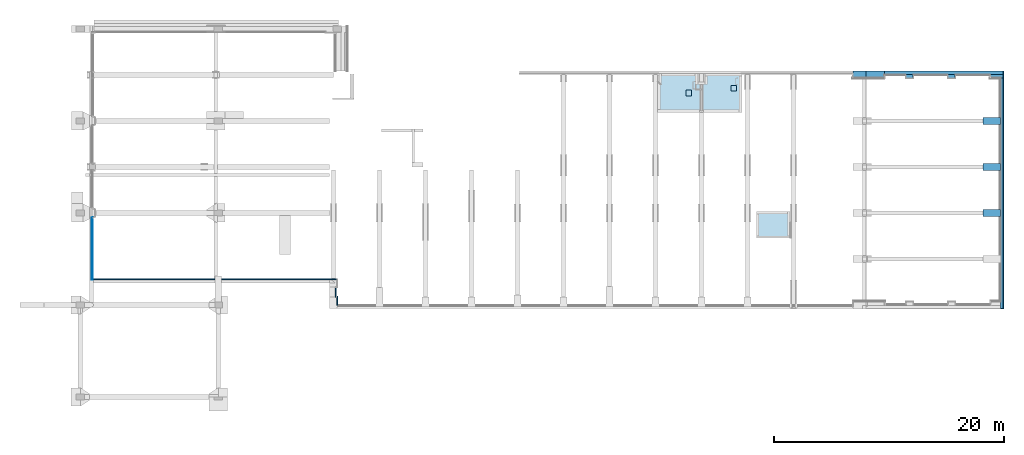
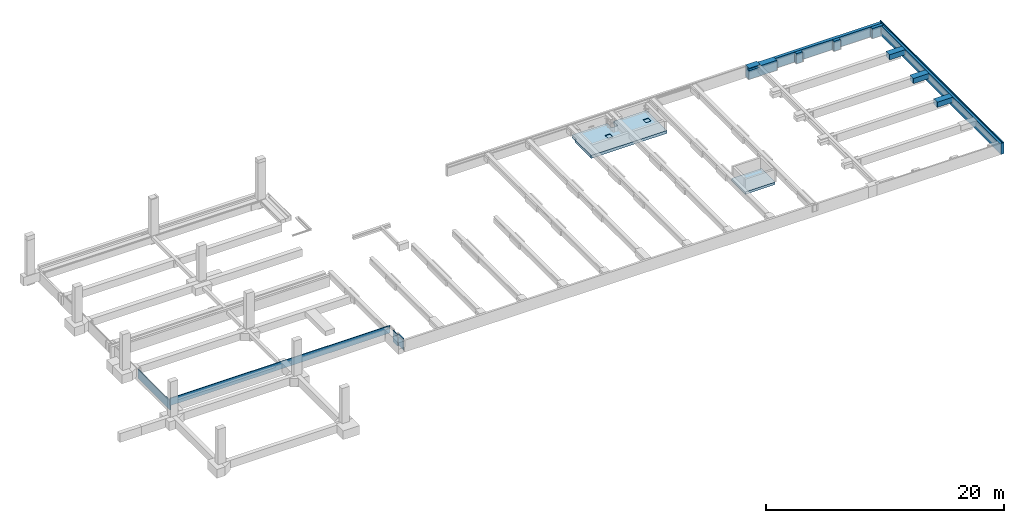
# One storey, part 9 of 17: 9 beams, 4 walls, 2 slabs, 3 openings.
"""IFC2X3 building model written with IfcOpenShell, lengths in millimetres."""

from ifc_helpers import new_model, entity, si_unit, converted_unit, derived_unit, money_unit, direction, frame, origin_with_axes, place, context, subcontext, project, spatial, faceted_brep, material, type_object, element, save


model = new_model("IFC2X3")

# Units and contexts
model_context = context("Model", 3, precision=0.01, world=origin_with_axes(), true_north=direction((0.0, 1.0)))
body_context = subcontext(model_context, "Body", "Model", "MODEL_VIEW")
ifc_project = project(units=[si_unit("LENGTHUNIT", "METRE", prefix="MILLI"), si_unit("AREAUNIT", "SQUARE_METRE"), si_unit("VOLUMEUNIT", "CUBIC_METRE"), converted_unit("PLANEANGLEUNIT", "DEGREE", entity("IfcPlaneAngleMeasure", 0.0174532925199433), si_unit("PLANEANGLEUNIT", "RADIAN"), dimensions=[0, 0, 0, 0, 0, 0, 0]), money_unit("EUR"), converted_unit("TIMEUNIT", "Year", entity("IfcTimeMeasure", 31557600.0), si_unit("TIMEUNIT", "SECOND"), dimensions=[0, 0, 1, 0, 0, 0, 0]), si_unit("MASSUNIT", "GRAM", prefix="KILO"), si_unit("THERMODYNAMICTEMPERATUREUNIT", "DEGREE_CELSIUS"), si_unit("LUMINOUSINTENSITYUNIT", "LUMEN"), si_unit("ENERGYUNIT", "JOULE", prefix="MEGA"), derived_unit("THERMALCONDUCTANCEUNIT", [(si_unit("POWERUNIT", "WATT"), 1), (si_unit("LENGTHUNIT", "METRE"), -1), (si_unit("THERMODYNAMICTEMPERATUREUNIT", "KELVIN"), -1)]), derived_unit("SPECIFICHEATCAPACITYUNIT", [(si_unit("ENERGYUNIT", "JOULE"), 1), (si_unit("MASSUNIT", "GRAM", prefix="KILO"), -1), (si_unit("THERMODYNAMICTEMPERATUREUNIT", "KELVIN"), -1)]), derived_unit("MASSDENSITYUNIT", [(si_unit("MASSUNIT", "GRAM", prefix="KILO"), 1), (si_unit("VOLUMEUNIT", "CUBIC_METRE"), -1)])], contexts=[model_context])

# Site, building, storey
site_placement = place(None, origin_with_axes())
site = spatial("IfcSite", under=ifc_project, at=site_placement, Name="<site naam>", CompositionType="ELEMENT")
building_placement = place(site_placement, origin_with_axes())
building = spatial("IfcBuilding", under=site, at=building_placement, Name="<Naam gebouw>", CompositionType="ELEMENT")
storey_placement = place(building_placement, frame((0.0, 0.0, -1100.0), z_axis=(0.0, 0.0, 1.0), x_axis=(1.0, 0.0, 0.0)))
storey = spatial("IfcBuildingStorey", under=building, at=storey_placement, Name="-1 Fundering", CompositionType="ELEMENT", Elevation=-1100.0)

# Beams
ifc_material_1 = material(Name="beton_gewapend C")
beam_type_1 = type_object("IfcBeamType", Name="beton_gewapend C 600 x 650", PredefinedType="BEAM")
beam_1_placement = place(storey_placement, frame((70310.0, 8000.000000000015, 1070.0), z_axis=(0.0, 0.0, 1.0), x_axis=(0.0, 1.0, 0.0)))
element("IfcBeam", 1, at=beam_1_placement, inside=storey, type_object=beam_type_1, material=ifc_material_1, Name="28_Balk_beton_gewapend", ObjectType="BEAM", context=body_context, shape_type="Brep", body=[
    faceted_brep([(300.0000000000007, 1819.999999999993, -650.0000000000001), (300.0000000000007, 1819.999999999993, -120.0), (300.0000000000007, 299.9999999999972, -119.9999999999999), (300.0000000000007, 299.9999999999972, -650.0000000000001), (-299.9999999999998, 1819.999999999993, -650.0000000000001), (-299.9999999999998, 1819.999999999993, -119.9999999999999), (-299.9999999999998, 299.9999999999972, -120.0), (-299.9999999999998, 299.9999999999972, -650.0000000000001)], [[[0, 1, 2, 3]], [[4, 5, 1, 0]], [[5, 6, 2, 1]], [[3, 2, 6, 7]], [[7, 4, 0, 3]], [[7, 6, 5, 4]]]),
])
for number, where, z_axis, x_axis, name in (
    (2, (70310.0, 12000.00000000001, 1070.0), (0.0, 0.0, 1.0), (0.0, 1.0, 0.0), "28_Balk_beton_gewapend"),
    (3, (70310.0, 16000.00000000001, 1070.0), (0.0, 0.0, 1.0), (0.0, 1.0, 0.0), "28_Balk_beton_gewapend"),
):
    element("IfcBeam", number, at=place(storey_placement, frame(where, z_axis=z_axis, x_axis=x_axis)), inside=storey, type_object=beam_type_1, material=ifc_material_1, Name=name, ObjectType="BEAM", context=body_context, shape_type="Brep", body=[
        faceted_brep([(300.0000000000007, 1819.999999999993, -650.0000000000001), (300.0000000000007, 1819.999999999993, -120.0), (300.0000000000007, 299.9999999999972, -119.9999999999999), (300.0000000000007, 299.9999999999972, -650.0000000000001), (-300.0000000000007, 1819.999999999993, -650.0000000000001), (-300.0000000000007, 1819.999999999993, -119.9999999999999), (-300.0000000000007, 299.9999999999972, -120.0), (-300.0000000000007, 299.9999999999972, -650.0000000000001)], [[[0, 1, 2, 3]], [[4, 5, 1, 0]], [[5, 6, 2, 1]], [[3, 2, 6, 7]], [[4, 0, 3, 7]], [[7, 6, 5, 4]]]),
    ])
beam_type_2 = type_object("IfcBeamType", Name="beton_gewapend C 300 x 1150", PredefinedType="BEAM")
beam_2_placement = place(storey_placement, frame((70310.0, -334.9999999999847, 1070.0), z_axis=(0.0, 0.0, 1.0), x_axis=(1.0, 0.0, 0.0)))
element("IfcBeam", 4, at=beam_2_placement, inside=storey, type_object=beam_type_2, material=ifc_material_1, Name="28_Balk_beton_gewapend", ObjectType="BEAM", context=body_context, shape_type="Brep", body=[
    faceted_brep([(-299.9999999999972, 20070.0, -1150.0), (-299.9999999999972, 20070.0, -120.0), (-84.99999999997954, 20070.0, -120.0), (-84.99999999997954, 20070.0, 0.0), (0.0, 20070.0, 0.0), (0.0, 20070.0, -1150.0), (-299.9999999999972, 10.91067811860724, 0.0), (-299.9999999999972, 10.91067811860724, -120.0), (-299.9999999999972, 0.0, -1150.0), (-299.9999999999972, 0.0, 0.0), (-84.99999999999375, 10.91067811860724, -120.0), (-84.99999999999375, 10.91067811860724, 0.0), (0.0, 0.0, 0.0), (0.0, 0.0, -1150.0)], [[[0, 1, 2, 3, 4, 5]], [[6, 7, 1, 0, 8, 9]], [[10, 2, 1, 7]], [[10, 11, 3, 2]], [[3, 11, 6, 9, 12, 4]], [[12, 13, 5, 4]], [[13, 8, 0, 5]], [[7, 6, 11, 10]], [[8, 13, 12, 9]]]),
])
beam_3_placement = place(storey_placement, frame((58000.00000000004, 20335.00000000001, 1070.0), z_axis=(0.0, 0.0, 1.0), x_axis=(0.0, -1.0, 0.0)))
element("IfcBeam", 5, at=beam_3_placement, inside=storey, type_object=beam_type_2, material=ifc_material_1, Name="28_Balk_beton_gewapend", ObjectType="BEAM", context=body_context, shape_type="Brep", body=[
    faceted_brep([(0.0, 1899.999999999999, -1150.0), (0.0, 1899.999999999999, -120.0), (0.0, 12224.99999999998, -120.0), (0.0, 12224.99999999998, 0.0), (0.0, 12309.99999999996, 0.0), (0.0, 12309.99999999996, -1150.0), (300.0000000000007, 1899.999999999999, -1150.0), (300.0000000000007, 1899.999999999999, -120.0), (300.0000000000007, 12224.99999999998, -120.0), (300.0000000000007, 12224.99999999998, 0.0), (300.0000000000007, 12309.99999999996, 0.0), (300.0000000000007, 12309.99999999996, -1150.0)], [[[0, 1, 2, 3, 4, 5]], [[6, 7, 1, 0]], [[8, 2, 1, 7]], [[8, 9, 3, 2]], [[4, 3, 9, 10]], [[4, 10, 11, 5]], [[5, 11, 6, 0]], [[9, 8, 7, 6, 11, 10]]]),
])
beam_type_3 = type_object("IfcBeamType", Name="beton_gewapend C 600 x 1150", PredefinedType="BEAM")
beam_4_placement = place(storey_placement, frame((62400.00000000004, 20335.00000000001, 1070.0), z_axis=(0.0, 0.0, 1.0), x_axis=(0.0, 1.0, 0.0)))
element("IfcBeam", 6, at=beam_4_placement, inside=storey, type_object=beam_type_3, material=ifc_material_1, Name="28_Balk_beton_gewapend", ObjectType="BEAM", context=body_context, shape_type="Brep", body=[
    faceted_brep([(-300.0000000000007, 600.0000000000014, -1150.0), (-300.0000000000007, 600.0000000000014, -120.0), (-300.0000000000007, 0.0, -120.0000000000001), (-300.0000000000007, 0.0, -1150.0), (-600.0000000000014, 600.0000000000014, -1150.0), (-600.0000000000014, 600.0000000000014, -120.0), (-600.0000000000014, 0.0, -120.0), (-600.0000000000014, 0.0, -1150.0)], [[[0, 1, 2, 3]], [[4, 5, 1, 0]], [[5, 6, 2, 1]], [[3, 2, 6, 7]], [[3, 7, 4, 0]], [[7, 6, 5, 4]]]),
])
beam_5_placement = place(storey_placement, frame((66050.00000000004, 20335.00000000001, 1070.0), z_axis=(0.0, 0.0, 1.0), x_axis=(0.0, 1.0, 0.0)))
element("IfcBeam", 7, at=beam_5_placement, inside=storey, type_object=beam_type_3, material=ifc_material_1, Name="28_Balk_beton_gewapend", ObjectType="BEAM", context=body_context, shape_type="Brep", body=[
    faceted_brep([(-299.9999999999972, 600.0000000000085, -1150.0), (-299.9999999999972, 600.0000000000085, -120.0), (-299.9999999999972, 0.0, -120.0000000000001), (-299.9999999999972, 0.0, -1150.0), (-600.0000000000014, 600.0000000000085, -1150.0), (-600.0000000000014, 600.0000000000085, -120.0), (-600.0000000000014, 0.0, -120.0), (-600.0000000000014, 0.0, -1150.0)], [[[0, 1, 2, 3]], [[4, 5, 1, 0]], [[5, 6, 2, 1]], [[3, 2, 6, 7]], [[3, 7, 4, 0]], [[7, 6, 5, 4]]]),
])
beam_6_placement = place(storey_placement, frame((59900.00000000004, 20335.00000000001, 1070.0), z_axis=(0.0, 0.0, 1.0), x_axis=(0.0, 1.0, 0.0)))
element("IfcBeam", 8, at=beam_6_placement, inside=storey, type_object=beam_type_3, material=ifc_material_1, Name="28_Balk_beton_gewapend", ObjectType="BEAM", context=body_context, shape_type="Brep", body=[
    faceted_brep([(0.0, 2700.000000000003, 0.0), (0.0, 1582.217155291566, 0.0), (0.0, 1582.217155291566, -120.0), (0.0, 0.0, -120.0), (0.0, 0.0, -1150.0), (0.0, 2700.000000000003, -1150.0), (-600.0000000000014, 2700.000000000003, 0.0), (-599.9999999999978, 1582.217155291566, 0.0), (-600.0000000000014, 1582.217155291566, -120.0), (-600.0000000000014, 0.0, -120.0), (-600.0000000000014, 0.0, -1150.0), (-600.0000000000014, 2700.000000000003, -1150.0), (-385.0453154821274, 2700.000000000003, -250.0), (-385.0453154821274, 2700.000000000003, -50.00000000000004), (-600.0000000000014, 2700.000000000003, -50.00000000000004), (-600.0000000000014, 2700.000000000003, -250.0), (-600.0000000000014, 1632.217029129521, -50.00000000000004), (-600.0000000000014, 1632.217029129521, -250.0), (-385.0453154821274, 1632.217029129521, -50.00000000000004), (-385.0453154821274, 1632.217029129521, -250.0)], [[[0, 1, 2, 3, 4, 5]], [[6, 7, 1, 0]], [[8, 2, 1, 7]], [[8, 9, 3, 2]], [[4, 3, 9, 10]], [[5, 4, 10, 11]], [[12, 13, 14, 6, 0, 5, 11, 15]], [[9, 8, 7, 6, 14, 16, 17, 15, 11, 10]], [[18, 13, 12, 19]], [[18, 16, 14, 13]], [[12, 15, 17, 19]], [[19, 17, 16, 18]]]),
])
beam_7_placement = place(storey_placement, frame((70310.0, 20335.00000000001, 1070.0), z_axis=(0.0, 0.0, 1.0), x_axis=(0.0, 1.0, 0.0)))
element("IfcBeam", 9, at=beam_7_placement, inside=storey, type_object=beam_type_3, material=ifc_material_1, Name="28_Balk_beton_gewapend", ObjectType="BEAM", context=body_context, shape_type="Brep", body=[
    faceted_brep([(-300.0000000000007, 1159.999999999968, -1150.0), (-300.0000000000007, 1159.999999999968, -120.0), (-300.0000000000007, 84.99999999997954, -120.0), (-300.0000000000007, 84.99999999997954, 0.0), (-300.0000000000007, 0.0, 0.0), (-300.0000000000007, 0.0, -1150.0), (-600.0000000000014, 1159.999999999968, -1150.0), (-600.0000000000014, 1159.999999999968, -120.0), (-600.0000000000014, 84.99999999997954, -120.0), (-600.0000000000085, 84.99999999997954, 0.0), (-600.0000000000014, 0.0, 0.0), (-600.0000000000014, 0.0, -1150.0)], [[[0, 1, 2, 3, 4, 5]], [[6, 7, 1, 0]], [[8, 2, 1, 7]], [[8, 9, 3, 2]], [[4, 3, 9, 10]], [[10, 11, 5, 4]], [[11, 6, 0, 5]], [[9, 8, 7, 6, 11, 10]]]),
])

# Slab
ifc_material_2 = material(Name="beton_gewapend_vloer C")
slab_type_1 = type_object("IfcSlabType", Name="beton_gewapend_vloer C  250", PredefinedType="NOTDEFINED")
slab_1_placement = place(storey_placement, frame((51700.00000000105, 8104.999998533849, -199.9999999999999), z_axis=(0.0, 0.0, 1.0), x_axis=(1.0, 0.0, 0.0)))
element("IfcSlab", 10, at=slab_1_placement, inside=storey, type_object=slab_type_1, material=ifc_material_2, Name="23_Vloer_beton_gewapend_vloer", PredefinedType="NOTDEFINED", context=body_context, shape_type="Brep", body=[
    faceted_brep([(0.0, 0.0, 0.0), (0.0, 0.0, -250.0), (-2899.99999999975, 0.0, -250.0), (-2899.99999999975, 0.0, 0.0), (0.0, -2299.999999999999, 0.0), (0.0, -2299.999999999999, -250.0), (-2899.99999999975, -2299.999999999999, -250.0), (-2899.99999999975, -2299.999999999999, 0.0)], [[[0, 1, 2, 3]], [[4, 5, 1, 0]], [[2, 1, 5, 6]], [[3, 2, 6, 7]], [[4, 0, 3, 7]], [[7, 6, 5, 4]]]),
])

# Slab, openings
slab_type_2 = type_object("IfcSlabType", Name="beton_gewapend_vloer C  300", PredefinedType="NOTDEFINED")
slab_2_placement = place(storey_placement, frame((40174.9999643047, 16724.9498352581, -70.00000000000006), z_axis=(0.0, 0.0, 1.0), x_axis=(1.0, 0.0, 0.0)))
slab_2 = element("IfcSlab", 11, at=slab_2_placement, inside=storey, type_object=slab_type_2, material=ifc_material_2, Name="23_Vloer_beton_gewapend_vloer", PredefinedType="NOTDEFINED", context=body_context, shape_type="Brep", body=[
    faceted_brep([(0.0, 0.0, 0.0), (0.0, 0.0, -300.0000000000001), (7337.884424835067, 0.0, -300.0000000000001), (7337.884424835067, 0.0, 0.0), (0.0, 2675.050323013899, 0.0), (0.0, 2675.050323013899, -300.0000000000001), (125.0000120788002, 2675.050323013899, -300.0000000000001), (125.0000120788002, 3410.05013508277, -300.0000000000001), (3525.000016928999, 3410.05013508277, -300.0000000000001), (3525.000016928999, 2675.050215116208, -300.0000000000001), (4125.00007490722, 2675.050215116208, -300.0000000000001), (4125.00007490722, 3410.05013508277, -300.0000000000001), (7337.884424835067, 3410.05013508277, -300.0000000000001), (7337.884424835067, 3410.05013508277, 0.0), (4125.00007490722, 3410.05013508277, 0.0), (4125.00007490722, 2675.050215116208, 0.0), (3525.000016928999, 2675.050215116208, 0.0), (3525.000016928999, 3410.05013508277, 0.0), (125.0000120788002, 3410.05013508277, 0.0), (125.0000120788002, 2675.050323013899, 0.0)], [[[0, 1, 2, 3]], [[4, 5, 1, 0]], [[2, 1, 5, 6, 7, 8, 9, 10, 11, 12]], [[3, 2, 12, 13]], [[4, 0, 3, 13, 14, 15, 16, 17, 18, 19]], [[19, 6, 5, 4]], [[18, 7, 6, 19]], [[17, 8, 7, 18]], [[16, 9, 8, 17]], [[15, 10, 9, 16]], [[14, 11, 10, 15]], [[13, 12, 11, 14]]]),
])
opening_1_placement = place(slab_2_placement, frame((-40174.9999643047, -16724.9498352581, 1170.0), z_axis=(0.0, 0.0, 1.0), x_axis=(1.0, 0.0, 0.0)))
element("IfcOpeningElement", 12, at=opening_1_placement, cuts=slab_2, Name="23_Opening_", context=body_context, shape_type="Brep", body=[
    faceted_brep([(44375.00000000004, 18499.99999999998, -1120.0), (45087.60832788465, 18499.99999999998, -1120.0), (45087.60832788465, 18499.99999999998, -870.0000000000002), (44375.00000000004, 18499.99999999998, -870.0000000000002), (44375.00000000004, 19199.99999999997, -1120.0), (45087.60832788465, 19199.99999999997, -1120.0), (45087.60832788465, 19199.99999999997, -870.0000000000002), (44375.00000000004, 19199.99999999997, -870.0000000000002)], [[[0, 1, 2, 3]], [[0, 4, 5, 1]], [[1, 5, 6, 2]], [[3, 2, 6, 7]], [[4, 0, 3, 7]], [[5, 4, 7, 6]]]),
])
opening_2_placement = place(slab_2_placement, frame((-40174.9999643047, -16724.9498352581, 1170.0), z_axis=(0.0, 0.0, 1.0), x_axis=(1.0, 0.0, 0.0)))
element("IfcOpeningElement", 13, at=opening_2_placement, cuts=slab_2, Name="23_pompput_", context=body_context, shape_type="Brep", body=[
    faceted_brep([(46562.88438913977, 18584.98572316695, -1220.0), (47062.88438913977, 18584.98572316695, -1220.0), (47062.88438913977, 18584.98572316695, -870.0000000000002), (46562.88438913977, 18584.98572316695, -870.0000000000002), (46562.88438913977, 19084.98572316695, -1220.0), (47062.88438913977, 19084.98572316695, -1220.0), (47062.88438913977, 19084.98572316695, -870.0000000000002), (46562.88438913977, 19084.98572316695, -870.0000000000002)], [[[0, 1, 2, 3]], [[0, 4, 5, 1]], [[1, 5, 6, 2]], [[3, 2, 6, 7]], [[4, 0, 3, 7]], [[5, 4, 7, 6]]]),
])
opening_3_placement = place(slab_2_placement, frame((-40174.9999643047, -16724.9498352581, 1170.0), z_axis=(0.0, 0.0, 1.0), x_axis=(1.0, 0.0, 0.0)))
element("IfcOpeningElement", 14, at=opening_3_placement, cuts=slab_2, Name="23_pompput_", context=body_context, shape_type="Brep", body=[
    faceted_brep([(42650.00000000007, 18184.95995398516, -1220.0), (43150.00000000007, 18184.95995398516, -1220.0), (43150.00000000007, 18184.95995398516, -870.0000000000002), (42650.00000000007, 18184.95995398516, -870.0000000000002), (42650.00000000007, 18684.95995398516, -1220.0), (43150.00000000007, 18684.95995398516, -1220.0), (43150.00000000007, 18684.95995398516, -870.0000000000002), (42650.00000000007, 18684.95995398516, -870.0000000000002)], [[[0, 1, 2, 3]], [[0, 4, 5, 1]], [[1, 5, 6, 2]], [[3, 2, 6, 7]], [[4, 0, 3, 7]], [[5, 4, 7, 6]]]),
])

# Walls
ifc_material_3 = material(Name="ALG - ISOLATIE")
wall_type = type_object("IfcWallType", Name="ALG - ISOLATIE 85", PredefinedType="NOTDEFINED")
wall_1_placement = place(storey_placement, frame((12300.43580117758, 692.2234741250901, -50.00000000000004), z_axis=(0.0, 0.0, 1.0), x_axis=(0.0003795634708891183, -0.9999999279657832, 0.0)))
element("IfcWall", 15, at=wall_1_placement, inside=storey, type_object=wall_type, material=ifc_material_3, Name="21_Binnenwand_ALG", context=body_context, shape_type="Brep", body=[
    faceted_brep([(-84.96774322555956, 85.00000000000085, 0.0), (-84.96774322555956, 85.00000000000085, 870.0000000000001), (732.3032405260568, 84.99999999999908, 870.0000000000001), (732.3032405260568, 84.99999999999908, 0.0), (-85.00000612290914, 0.0, 0.0), (-85.00000612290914, 0.0, 870.0000000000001), (732.303240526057, 0.0, 870.0000000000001), (732.303240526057, 0.0, 0.0)], [[[0, 1, 2, 3]], [[4, 5, 1, 0]], [[5, 6, 2, 1]], [[3, 2, 6, 7]], [[0, 3, 7, 4]], [[7, 6, 5, 4]]]),
    faceted_brep([(732.303240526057, 0.0, 1150.0), (732.303240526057, 0.0, 950.0000000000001), (732.3032405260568, 84.99999999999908, 950.0000000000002), (732.3032405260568, 84.99999999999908, 1150.0), (-85.00000612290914, 0.0, 1150.0), (-85.00000612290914, 0.0, 950.0000000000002), (-84.96774322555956, 85.00000000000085, 950.0000000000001), (-84.96774322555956, 85.00000000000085, 1150.0)], [[[0, 1, 2, 3]], [[4, 5, 1, 0]], [[5, 6, 2, 1]], [[3, 2, 6, 7]], [[4, 0, 3, 7]], [[7, 6, 5, 4]]]),
])
wall_2_placement = place(storey_placement, frame((12300.44613421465, 2175.000000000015, 349.9999928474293), z_axis=(0.0, 0.0, 1.0), x_axis=(-1.0, 0.0, 0.0)))
element("IfcWall", 16, at=wall_2_placement, inside=storey, type_object=wall_type, material=ifc_material_3, Name="21_Binnenwand_ALG", context=body_context, shape_type="Brep", body=[
    faceted_brep([(0.0, 0.0, 750.0000071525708), (0.0, 0.0, 550.0000071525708), (0.0, -85.00000000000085, 550.0000071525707), (0.0, -85.00000000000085, 750.0000071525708), (365.4461342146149, 0.0, 470.0000071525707), (365.4461342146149, 0.0, 550.0000071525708), (21300.44613353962, 0.0, 750.0000071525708), (21300.44613353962, 0.0, 600.0000071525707), (21300.44613353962, 0.0, 0.0), (0.0, 0.0, 0.0), (0.0, 0.0, 470.0000071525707), (21300.44613353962, -85.00000000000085, 550.0000071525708), (365.4461342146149, -10.67356822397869, 550.0000071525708), (21300.44613353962, -10.67356822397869, 550.0000071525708), (21300.44613353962, -85.00000000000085, 600.0000071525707), (21300.44613353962, -85.00000000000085, 750.0000071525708), (365.4461342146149, -10.67356822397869, 470.0000071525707), (21300.44613353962, -10.67356822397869, 470.0000071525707), (21300.44613353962, -85.00000000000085, 470.0000071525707), (21300.44613353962, -85.00000000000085, 0.0), (0.0, -85.00000000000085, 0.0), (0.0, -85.00000000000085, 470.0000071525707)], [[[0, 1, 2, 3]], [[4, 5, 1, 0, 6, 7, 8, 9, 10]], [[11, 2, 1, 5, 12, 13]], [[3, 2, 11, 14, 15]], [[0, 3, 15, 6]], [[4, 16, 12, 5]], [[14, 7, 6, 15]], [[13, 17, 18, 19, 8, 7, 14, 11]], [[20, 9, 8, 19]], [[20, 21, 10, 9]], [[17, 16, 4, 10, 21, 18]], [[13, 12, 16, 17]], [[18, 21, 20, 19]]]),
])
wall_3_placement = place(storey_placement, frame((-8999.999999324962, 2175.000000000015, -100.0000000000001), z_axis=(0.0, 0.0, 1.0), x_axis=(0.0, 1.0, 0.0)))
element("IfcWall", 17, at=wall_3_placement, inside=storey, type_object=wall_type, material=ifc_material_3, Name="21_Binnenwand_ALG", context=body_context, shape_type="Brep", body=[
    faceted_brep([(5447.041179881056, -84.99999999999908, 0.0), (5404.541143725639, 0.0, 0.0), (5404.541143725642, 0.0, 920.0000000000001), (5447.041179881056, -84.99999999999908, 920.0000000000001), (0.0, -84.99999999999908, 0.0), (0.0, 0.0, 0.0), (0.0, 0.0, 449.9999928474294), (85.00000000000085, 0.0, 449.9999928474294), (85.00000000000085, 0.0, 920.0000000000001), (85.00000000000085, -84.99999999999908, 920.0000000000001), (85.00000000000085, -84.99999999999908, 449.9999928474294), (0.0, -84.99999999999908, 449.9999928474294)], [[[0, 1, 2, 3]], [[4, 5, 1, 0]], [[6, 7, 8, 2, 1, 5]], [[2, 8, 9, 3]], [[4, 0, 3, 9, 10, 11]], [[6, 5, 4, 11]], [[10, 7, 6, 11]], [[7, 10, 9, 8]]]),
])
wall_4_placement = place(storey_placement, frame((12175.44614099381, 1575.000000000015, -50.00000000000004), z_axis=(0.0, 0.0, 1.0), x_axis=(-5.376672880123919e-09, -1.0, 0.0)))
element("IfcWall", 18, at=wall_4_placement, inside=storey, type_object=wall_type, material=ifc_material_3, Name="21_Binnenwand_ALG", context=body_context, shape_type="Brep", body=[
    faceted_brep([(85.00000000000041, 4.570157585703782e-07, 0.0), (85.00000000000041, 4.570157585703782e-07, 870.0000000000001), (84.99999954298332, 85.00000045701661, 870.0000000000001), (84.99999954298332, 85.00000045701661, 0.0), (882.7765258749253, 4.746400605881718e-06, 0.0), (882.7765258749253, 4.746400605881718e-06, 870.0000000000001), (882.776525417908, 85.00000474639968, 870.0000000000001), (882.776525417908, 85.00000474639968, 0.0)], [[[0, 1, 2, 3]], [[4, 5, 1, 0]], [[5, 6, 2, 1]], [[3, 2, 6, 7]], [[3, 7, 4, 0]], [[7, 6, 5, 4]]]),
    faceted_brep([(882.776525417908, 85.00000474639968, 1150.0), (882.776525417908, 85.00000474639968, 950.0000000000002), (84.99999954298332, 85.00000045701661, 950.0000000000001), (84.99999954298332, 85.00000045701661, 1150.0), (882.7765258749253, 4.746400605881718e-06, 1150.0), (882.7765258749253, 4.746400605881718e-06, 950.0000000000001), (85.00000000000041, 4.570157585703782e-07, 950.0000000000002), (85.00000000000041, 4.570157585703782e-07, 1150.0)], [[[0, 1, 2, 3]], [[4, 5, 1, 0]], [[5, 6, 2, 1]], [[3, 2, 6, 7]], [[7, 4, 0, 3]], [[7, 6, 5, 4]]]),
])

save(model, "model.ifc")
